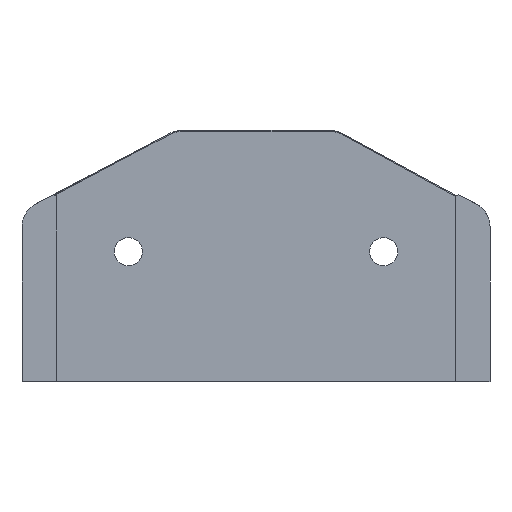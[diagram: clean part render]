
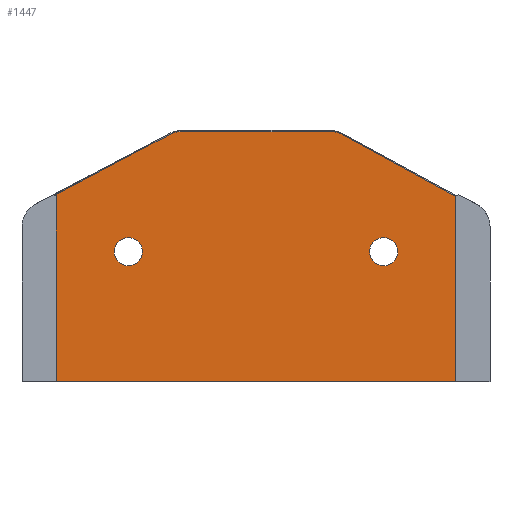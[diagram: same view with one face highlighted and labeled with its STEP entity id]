
A CAD part, left-side view. The second image highlights one B-rep face of the part: STEP entity #1447.
In plain terms, the highlighted planar face has unit normal (-1, 0, 0).
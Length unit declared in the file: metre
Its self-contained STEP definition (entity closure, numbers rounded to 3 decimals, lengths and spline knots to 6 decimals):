
#34=LINE('',#2128,#146);
#122=LINE('',#2459,#234);
#125=LINE('',#2471,#237);
#126=LINE('',#2475,#238);
#127=LINE('',#2477,#239);
#128=LINE('',#2478,#240);
#146=VECTOR('',#1706,1.);
#234=VECTOR('',#1984,1.);
#237=VECTOR('',#1991,1.);
#238=VECTOR('',#1994,1.);
#239=VECTOR('',#1995,1.);
#240=VECTOR('',#1996,1.);
#257=B_SPLINE_CURVE_WITH_KNOTS('',3,(#2465,#2466,#2467,#2468),
 .UNSPECIFIED.,.F.,.F.,(4,4),(0.,1.),.UNSPECIFIED.);
#258=B_SPLINE_CURVE_WITH_KNOTS('',3,(#2480,#2481,#2482,#2483),
 .UNSPECIFIED.,.F.,.F.,(4,4),(0.,1.),.UNSPECIFIED.);
#259=B_SPLINE_CURVE_WITH_KNOTS('',3,(#2485,#2486,#2487,#2488),
 .UNSPECIFIED.,.F.,.F.,(4,4),(0.,1.),.UNSPECIFIED.);
#260=B_SPLINE_CURVE_WITH_KNOTS('',3,(#2490,#2491,#2492,#2493),
 .UNSPECIFIED.,.F.,.F.,(4,4),(0.,1.),.UNSPECIFIED.);
#292=PLANE('',#1609);
#627=ORIENTED_EDGE('',*,*,#720,.T.);
#628=ORIENTED_EDGE('',*,*,#718,.T.);
#629=ORIENTED_EDGE('',*,*,#901,.F.);
#630=ORIENTED_EDGE('',*,*,#902,.F.);
#631=ORIENTED_EDGE('',*,*,#903,.F.);
#632=ORIENTED_EDGE('',*,*,#904,.F.);
#633=ORIENTED_EDGE('',*,*,#905,.F.);
#634=ORIENTED_EDGE('',*,*,#898,.F.);
#635=ORIENTED_EDGE('',*,*,#758,.T.);
#636=ORIENTED_EDGE('',*,*,#906,.T.);
#637=ORIENTED_EDGE('',*,*,#907,.F.);
#638=ORIENTED_EDGE('',*,*,#908,.F.);
#639=ORIENTED_EDGE('',*,*,#909,.F.);
#718=EDGE_CURVE('',#926,#926,#1068,.F.);
#720=EDGE_CURVE('',#928,#928,#1070,.F.);
#758=EDGE_CURVE('',#967,#965,#34,.T.);
#898=EDGE_CURVE('',#967,#1056,#122,.T.);
#901=EDGE_CURVE('',#1057,#1058,#257,.T.);
#902=EDGE_CURVE('',#1059,#1057,#125,.T.);
#903=EDGE_CURVE('',#1060,#1059,#1138,.F.);
#904=EDGE_CURVE('',#1061,#1060,#126,.T.);
#905=EDGE_CURVE('',#1056,#1061,#127,.F.);
#906=EDGE_CURVE('',#965,#1062,#128,.T.);
#907=EDGE_CURVE('',#1063,#1062,#258,.T.);
#908=EDGE_CURVE('',#1064,#1063,#259,.T.);
#909=EDGE_CURVE('',#1058,#1064,#260,.T.);
#926=VERTEX_POINT('',#2042);
#928=VERTEX_POINT('',#2047);
#965=VERTEX_POINT('',#2126);
#967=VERTEX_POINT('',#2129);
#1056=VERTEX_POINT('',#2460);
#1057=VERTEX_POINT('',#2469);
#1058=VERTEX_POINT('',#2470);
#1059=VERTEX_POINT('',#2472);
#1060=VERTEX_POINT('',#2474);
#1061=VERTEX_POINT('',#2476);
#1062=VERTEX_POINT('',#2479);
#1063=VERTEX_POINT('',#2484);
#1064=VERTEX_POINT('',#2489);
#1068=CIRCLE('',#1482,0.00165);
#1070=CIRCLE('',#1485,0.00165);
#1138=CIRCLE('',#1610,0.002876);
#1221=EDGE_LOOP('',(#627));
#1222=EDGE_LOOP('',(#628));
#1223=EDGE_LOOP('',(#629,#630,#631,#632,#633,#634,#635,#636,#637,#638,#639));
#1327=FACE_BOUND('',#1221,.T.);
#1328=FACE_BOUND('',#1222,.T.);
#1329=FACE_BOUND('',#1223,.T.);
#1447=ADVANCED_FACE('',(#1327,#1328,#1329),#292,.F.);
#1482=AXIS2_PLACEMENT_3D('',#2041,#1633,#1634);
#1485=AXIS2_PLACEMENT_3D('',#2046,#1639,#1640);
#1609=AXIS2_PLACEMENT_3D('',#2464,#1989,#1990);
#1610=AXIS2_PLACEMENT_3D('',#2473,#1992,#1993);
#1633=DIRECTION('',(-1.,0.,0.));
#1634=DIRECTION('',(0.,0.,1.));
#1639=DIRECTION('',(-1.,0.,0.));
#1640=DIRECTION('',(0.,0.,1.));
#1706=DIRECTION('',(0.,-1.,0.));
#1984=DIRECTION('',(0.,0.,1.));
#1989=DIRECTION('',(1.,0.,0.));
#1990=DIRECTION('',(0.,0.,1.));
#1991=DIRECTION('',(0.,-1.,0.));
#1992=DIRECTION('',(-1.,0.,0.));
#1993=DIRECTION('',(0.,0.,1.));
#1994=DIRECTION('',(0.,-0.884,0.467));
#1995=DIRECTION('',(0.,-0.987,-0.159));
#1996=DIRECTION('',(0.,0.,1.));
#2041=CARTESIAN_POINT('',(0.002,-0.0425,0.00525));
#2042=CARTESIAN_POINT('',(0.002,-0.0425,0.0069));
#2046=CARTESIAN_POINT('',(0.002,-0.0125,0.00525));
#2047=CARTESIAN_POINT('',(0.002,-0.0125,0.0069));
#2126=CARTESIAN_POINT('',(0.002,-0.052155,-0.01));
#2128=CARTESIAN_POINT('',(0.002,-0.0275,-0.01));
#2129=CARTESIAN_POINT('',(0.002,-0.002845,-0.01));
#2459=CARTESIAN_POINT('',(0.002,-0.002845,-0.010002));
#2460=CARTESIAN_POINT('',(0.002,-0.002845,0.011227));
#2464=CARTESIAN_POINT('',(0.002,-0.0275,-0.010002));
#2465=CARTESIAN_POINT('',(0.002,-0.036236,0.019376));
#2466=CARTESIAN_POINT('',(0.002,-0.036725,0.019376));
#2467=CARTESIAN_POINT('',(0.002,-0.037184,0.019259));
#2468=CARTESIAN_POINT('',(0.002,-0.037612,0.019026));
#2469=CARTESIAN_POINT('',(0.002,-0.036236,0.019376));
#2470=CARTESIAN_POINT('',(0.002,-0.037612,0.019026));
#2471=CARTESIAN_POINT('',(0.002,-0.0275,0.019376));
#2472=CARTESIAN_POINT('',(0.002,-0.018743,0.019376));
#2473=CARTESIAN_POINT('',(0.002,-0.018743,0.0165));
#2474=CARTESIAN_POINT('',(0.002,-0.017401,0.019044));
#2475=CARTESIAN_POINT('',(0.002,-0.01331,0.016885));
#2476=CARTESIAN_POINT('',(0.002,-0.002649,0.011258));
#2477=CARTESIAN_POINT('',(0.002,-0.030206,0.006828));
#2478=CARTESIAN_POINT('',(0.002,-0.052155,-0.010002));
#2479=CARTESIAN_POINT('',(0.002,-0.052155,0.010889));
#2480=CARTESIAN_POINT('',(0.002,-0.0523,0.011024));
#2481=CARTESIAN_POINT('',(0.002,-0.052252,0.010979));
#2482=CARTESIAN_POINT('',(0.002,-0.052203,0.010934));
#2483=CARTESIAN_POINT('',(0.002,-0.052155,0.010889));
#2484=CARTESIAN_POINT('',(0.002,-0.0523,0.011024));
#2485=CARTESIAN_POINT('',(0.002,-0.052155,0.011103));
#2486=CARTESIAN_POINT('',(0.002,-0.052203,0.011077));
#2487=CARTESIAN_POINT('',(0.002,-0.052252,0.01105));
#2488=CARTESIAN_POINT('',(0.002,-0.0523,0.011024));
#2489=CARTESIAN_POINT('',(0.002,-0.052155,0.011103));
#2490=CARTESIAN_POINT('',(0.002,-0.037612,0.019026));
#2491=CARTESIAN_POINT('',(0.002,-0.04246,0.016385));
#2492=CARTESIAN_POINT('',(0.002,-0.047307,0.013744));
#2493=CARTESIAN_POINT('',(0.002,-0.052155,0.011103));
